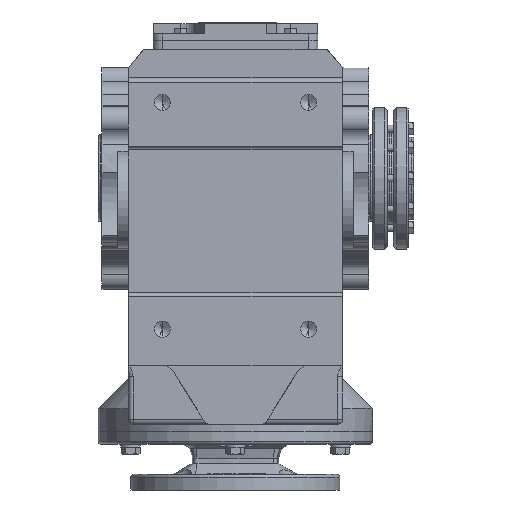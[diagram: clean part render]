
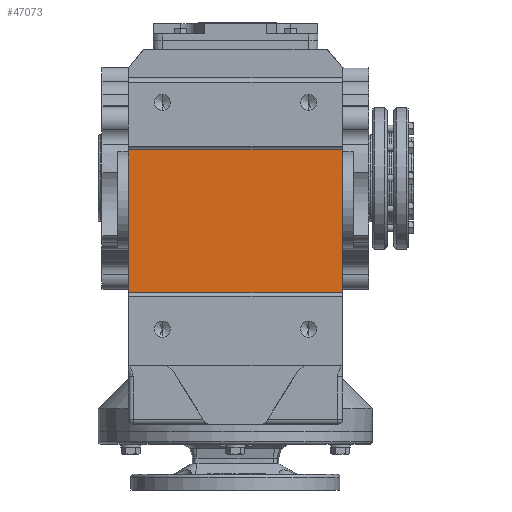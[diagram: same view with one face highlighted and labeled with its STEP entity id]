
A CAD part, front view. The second image highlights one B-rep face of the part: STEP entity #47073.
In plain terms, the highlighted planar face has unit normal (0, -1, 0).
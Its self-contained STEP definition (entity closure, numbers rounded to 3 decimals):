
#1282 = EDGE_CURVE ( 'NONE', #13977, #14017, #64492, .T. ) ;
#1286 = EDGE_CURVE ( 'NONE', #14008, #13977, #64498, .T. ) ;
#1288 = EDGE_CURVE ( 'NONE', #14008, #14023, #64500, .T. ) ;
#1289 = EDGE_CURVE ( 'NONE', #14023, #14017, #64493, .T. ) ;
#13977 = VERTEX_POINT ( 'NONE', #24395 ) ;
#14008 = VERTEX_POINT ( 'NONE', #24433 ) ;
#14017 = VERTEX_POINT ( 'NONE', #24434 ) ;
#14023 = VERTEX_POINT ( 'NONE', #24447 ) ;
#24395 = CARTESIAN_POINT ( 'NONE',  ( -117., -260., 31. ) ) ;
#24433 = CARTESIAN_POINT ( 'NONE',  ( -117., -260., -125. ) ) ;
#24434 = CARTESIAN_POINT ( 'NONE',  ( 117., -260., 31. ) ) ;
#24447 = CARTESIAN_POINT ( 'NONE',  ( 117., -260., -125. ) ) ;
#28222 = FACE_OUTER_BOUND ( 'NONE', #44013, .T. ) ;
#31802 = CARTESIAN_POINT ( 'NONE',  ( -145., -260., 31. ) ) ;
#31813 = PLANE ( 'NONE',  #49203 ) ;
#31818 = DIRECTION ( 'NONE',  ( 0., -1., 0. ) ) ;
#31820 = DIRECTION ( 'NONE',  ( 0., 0., -1. ) ) ;
#41223 = ORIENTED_EDGE ( 'NONE', *, *, #1282, .F. ) ;
#41224 = ORIENTED_EDGE ( 'NONE', *, *, #1286, .F. ) ;
#41225 = ORIENTED_EDGE ( 'NONE', *, *, #1288, .T. ) ;
#41226 = ORIENTED_EDGE ( 'NONE', *, *, #1289, .T. ) ;
#44013 = EDGE_LOOP ( 'NONE', ( #41223, #41224, #41225, #41226 ) ) ;
#47073 = ADVANCED_FACE ( 'NONE', ( #28222 ), #31813, .T. ) ;
#49203 = AXIS2_PLACEMENT_3D ( 'NONE', #31802, #31818, #31820 ) ;
#59011 = DIRECTION ( 'NONE',  ( 1., 0., 0. ) ) ;
#59024 = CARTESIAN_POINT ( 'NONE',  ( -145., -260., 31. ) ) ;
#59032 = DIRECTION ( 'NONE',  ( 0., 0., 1. ) ) ;
#59040 = CARTESIAN_POINT ( 'NONE',  ( -117., -260., 31. ) ) ;
#59046 = CARTESIAN_POINT ( 'NONE',  ( 117., -260., 31. ) ) ;
#59053 = CARTESIAN_POINT ( 'NONE',  ( -145., -260., -125. ) ) ;
#59057 = DIRECTION ( 'NONE',  ( 1., 0., 0. ) ) ;
#59059 = DIRECTION ( 'NONE',  ( 0., 0., 1. ) ) ;
#64492 = LINE ( 'NONE', #59024, #64495 ) ;
#64493 = LINE ( 'NONE', #59046, #64511 ) ;
#64495 = VECTOR ( 'NONE', #59011, 1000. ) ;
#64498 = LINE ( 'NONE', #59040, #64502 ) ;
#64500 = LINE ( 'NONE', #59053, #64506 ) ;
#64502 = VECTOR ( 'NONE', #59032, 1000. ) ;
#64506 = VECTOR ( 'NONE', #59057, 1000. ) ;
#64511 = VECTOR ( 'NONE', #59059, 1000. ) ;
